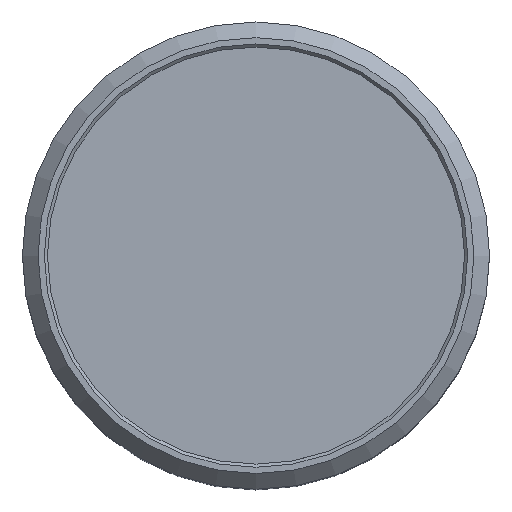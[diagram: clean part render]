
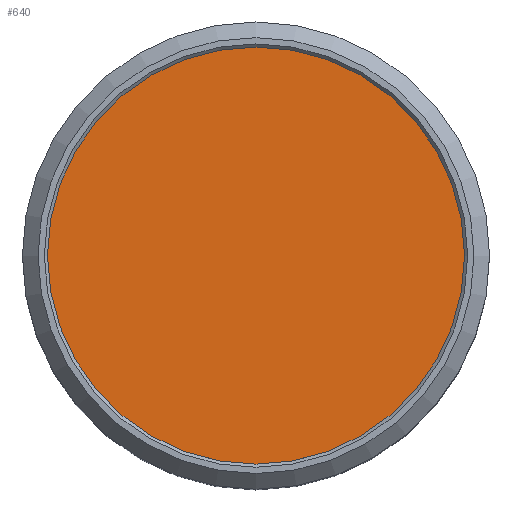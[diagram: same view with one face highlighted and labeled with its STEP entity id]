
A CAD part, top view. The second image highlights one B-rep face of the part: STEP entity #640.
In plain terms, the highlighted planar face has unit normal (0, 0, 1).
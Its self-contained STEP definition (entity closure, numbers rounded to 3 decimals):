
#33=PLANE('',#720);
#155=FACE_OUTER_BOUND('',#208,.T.);
#208=EDGE_LOOP('',(#526));
#251=CIRCLE('',#719,13.3);
#300=VERTEX_POINT('',#1065);
#394=EDGE_CURVE('',#300,#300,#251,.T.);
#526=ORIENTED_EDGE('',*,*,#394,.T.);
#640=ADVANCED_FACE('',(#155),#33,.T.);
#719=AXIS2_PLACEMENT_3D('',#1066,#872,#873);
#720=AXIS2_PLACEMENT_3D('',#1067,#874,#875);
#872=DIRECTION('center_axis',(0.,0.,1.));
#873=DIRECTION('ref_axis',(1.,0.,0.));
#874=DIRECTION('center_axis',(0.,0.,1.));
#875=DIRECTION('ref_axis',(1.,0.,0.));
#1065=CARTESIAN_POINT('',(13.3,0.,22.));
#1066=CARTESIAN_POINT('Origin',(0.,0.,22.));
#1067=CARTESIAN_POINT('Origin',(0.,0.,22.));
